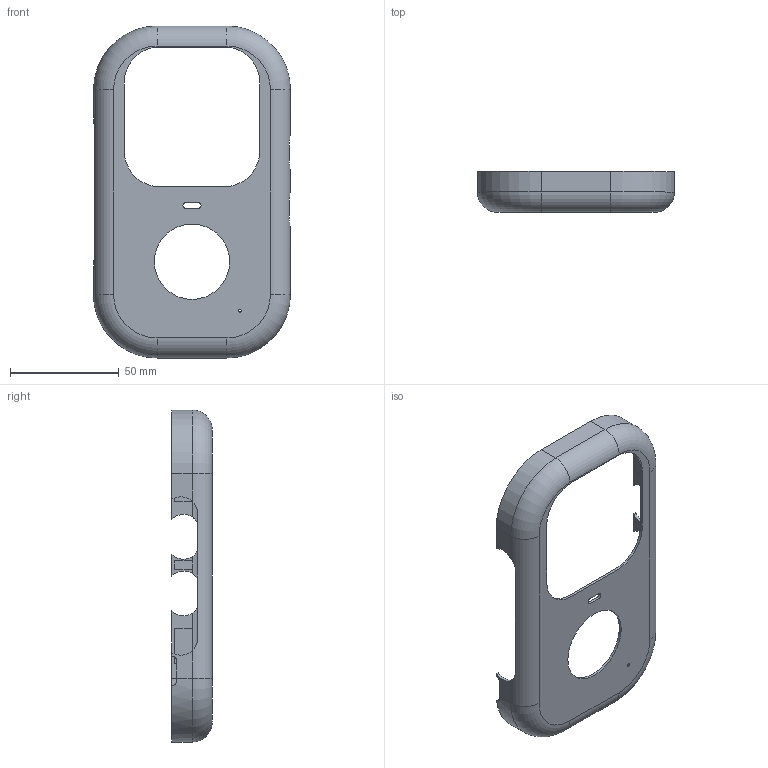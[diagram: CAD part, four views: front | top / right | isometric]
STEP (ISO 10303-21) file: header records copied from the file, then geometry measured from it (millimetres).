
FILE_DESCRIPTION(('Open CASCADE Model'),'2;1');
FILE_NAME('front_grip_skin_finegrain_cream','2026-09-04T19:55:14',( 'Author'),('Open CASCADE'),'Open CASCADE STEP processor 7.8', 'build123d','Unknown');
FILE_SCHEMA(('AUTOMOTIVE_DESIGN { 1 0 10303 214 1 1 1 1 }'));
Length unit declared in the file: millimetre
Products named in the file (1): front_grip_skin_finegrain_cream
Bounding box: 90.4 x 18.6 x 152.4 mm (x, y, z)
Volume: 15423.2 mm3; surface area: 26857.4 mm2
Topology: 1 solids, 1 shells, 99 faces, 263 edges, 166 vertices
Faces by surface type: plane 59, cylinder 32, torus 8
Full cylindrical faces by diameter (mm): 1.2 x1, 34.6 x1
Entity records: 7119 total; most frequent: CARTESIAN_POINT 2092, DIRECTION 865, ORIENTED_EDGE 526, PCURVE 526, DEFINITIONAL_REPRESENTATION 526, LINE 494, VECTOR 494, EDGE_CURVE 263
